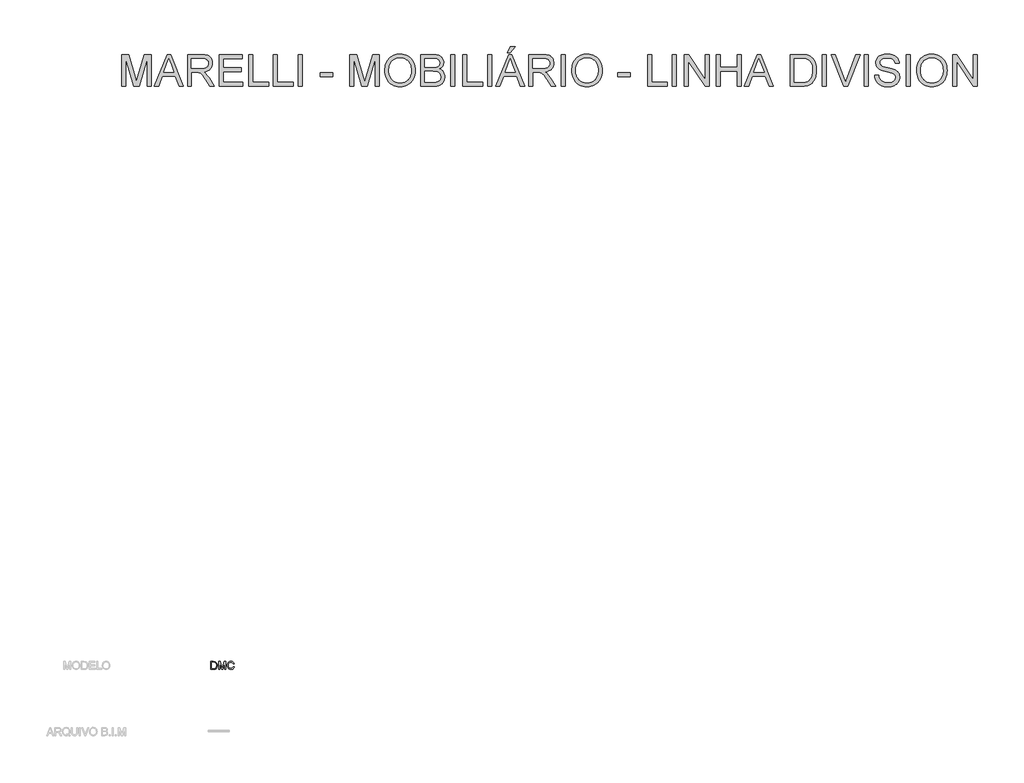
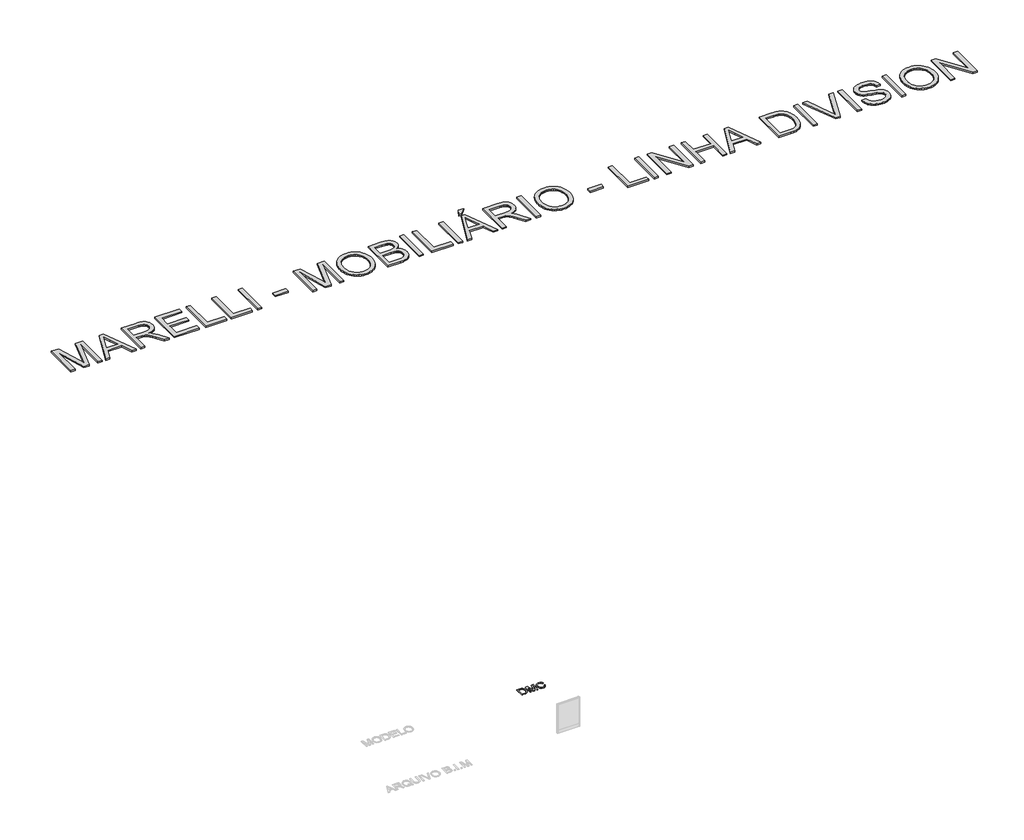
# One storey, part 3 of 3: 2 proxies.
"""IFC4 building model written with IfcOpenShell, lengths in millimetres."""

from ifc_helpers import new_model, si_unit, origin, origin_with_axes, place, context, project, spatial, polyline, outline, extrude, element, save

model = new_model("IFC4")

# Units and contexts
model_context = context("Model", 3, world=origin())
ifc_project = project(units=[si_unit("LENGTHUNIT", "METRE", prefix="MILLI")], contexts=[model_context])

# Site, building, storey
site = spatial("IfcSite", under=ifc_project)
building = spatial("IfcBuilding", under=site)
storey = spatial("IfcBuildingStorey", under=building, Name="Marelli - Linha DIVISION - Planta Baixa", Elevation=0.0)

# Proxies
placement = place(None, origin())
element("IfcBuildingElementProxy", 1, Name="1200mm Arial", ObjectType="1200mm Arial", at=placement, inside=storey, context=model_context, shape_type="SweptSolid", body=[
    extrude(outline(polyline([(7231.5865402, 28269.4336799), (7231.5865402, 29474.9094017), (7490.8697704, 29474.9094017), (7737.49786, 28625.2491457), (7787.2355057, 28447.7828712), (7841.0934298, 28639.9644255), (8083.601241, 29474.9094017), (8342.8844712, 29474.9094017), (8342.8844712, 28269.4336799), (8192.200006, 28269.4336799), (8192.200006, 29324.2249365), (7889.3595476, 28269.4336799), (7685.1114639, 28269.4336799), (7382.2710054, 29324.2249365), (7382.2710054, 28269.4336799), (7231.5865402, 28269.4336799)])), origin_with_axes(), (0.0, 0.0, 1.0), 50.0),
    extrude(outline(polyline([(8466.198516, 28269.4336799), (8947.3881657, 29474.9094017), (9075.7054056, 29474.9094017), (9556.8950553, 28269.4336799), (9397.6757278, 28269.4336799), (9259.6464032, 28646.144843), (8763.1528625, 28646.144843), (8625.4178435, 28269.4336799), (8466.198516, 28269.4336799)]), holes=[polyline([(8818.4823146, 28796.8293082), (9204.6112567, 28796.8293082), (9096.0124918, 29093.1950435), (9011.5467857, 29324.2249365), (8936.4988586, 29119.093936), (8818.4823146, 28796.8293082)])]), origin_with_axes(), (0.0, 0.0, 1.0), 50.0),
    extrude(outline(polyline([(9717.8802164, 28269.4336799), (9717.8802164, 29474.9094017), (10237.3295936, 29474.9094017), (10311.890077, 29472.8768537), (10376.9408108, 29466.7792096), (10432.481795, 29456.6164695), (10478.5130296, 29442.3886334), (10517.7108562, 29423.0012522), (10552.7516163, 29397.3598771), (10583.6353098, 29365.4645082), (10610.3619367, 29327.3151453), (10631.9290187, 29284.9627306), (10647.3340772, 29240.4582062), (10656.5771123, 29193.8015722), (10659.6581241, 29144.9928285), (10654.5537614, 29083.0782887), (10639.2406733, 29026.2405204), (10613.7188599, 28974.4795237), (10577.9883211, 28927.7952985), (10556.1798166, 28906.7294558), (10531.5892045, 28887.6777669), (10474.0616575, 28855.616851), (10405.4056801, 28831.6125509), (10325.6212724, 28815.6648664), (10375.2853418, 28783.2176744), (10411.2642009, 28751.2119408), (10472.9947997, 28678.0034238), (10533.4010233, 28596.1128916), (10734.4117455, 28269.4336799), (10559.2999158, 28269.4336799), (10402.435033, 28519.2991311), (10339.6743647, 28614.6541442), (10289.1273785, 28684.6988761), (10247.0048901, 28732.9282057), (10209.5177148, 28762.8370119), (10174.0171022, 28780.384983), (10137.8543021, 28791.5318075), (10102.611207, 28795.504933), (10050.44554, 28796.8293082), (9868.5646816, 28796.8293082), (9868.5646816, 28269.4336799), (9717.8802164, 28269.4336799)]), holes=[polyline([(9868.5646816, 28947.5137734), (10205.8388948, 28947.5137734), (10302.7022241, 28952.8480624), (10342.9944997, 28959.5159235), (10377.8605158, 28968.8509292), (10408.0820217, 28981.1197937), (10434.4407666, 28996.5892316), (10456.9367506, 29015.2592429), (10475.5699737, 29037.1298275), (10490.1840859, 29061.1249306), (10500.6227375, 29086.1684974), (10506.8859285, 29112.2605279), (10508.9736588, 29139.4010221), (10504.9913362, 29177.9366611), (10493.0443684, 29212.9038448), (10473.1327555, 29244.3025731), (10445.2564973, 29272.132846), (10408.7718004, 29294.9231356), (10363.0348713, 29311.2019139), (10308.0457101, 29320.9691808), (10243.8043167, 29324.2249365), (9868.5646816, 29324.2249365), (9868.5646816, 28947.5137734)])]), origin_with_axes(), (0.0, 0.0, 1.0), 50.0),
    extrude(outline(polyline([(10923.3559382, 28269.4336799), (10923.3559382, 29474.9094017), (11789.7916132, 29474.9094017), (11789.7916132, 29324.2249365), (11074.0404034, 29324.2249365), (11074.0404034, 28966.3493316), (11752.1204969, 28966.3493316), (11752.1204969, 28815.6648664), (11074.0404034, 28815.6648664), (11074.0404034, 28420.1181452), (11808.6271714, 28420.1181452), (11808.6271714, 28269.4336799), (10923.3559382, 28269.4336799)])), origin_with_axes(), (0.0, 0.0, 1.0), 50.0),
    extrude(outline(polyline([(12034.6538692, 28269.4336799), (12034.6538692, 29474.9094017), (12185.3383345, 29474.9094017), (12185.3383345, 28420.1181452), (12788.0761954, 28420.1181452), (12788.0761954, 28269.4336799), (12034.6538692, 28269.4336799)])), origin_with_axes(), (0.0, 0.0, 1.0), 50.0),
    extrude(outline(polyline([(12957.5962187, 28269.4336799), (12957.5962187, 29474.9094017), (13108.280684, 29474.9094017), (13108.280684, 28420.1181452), (13711.0185449, 28420.1181452), (13711.0185449, 28269.4336799), (12957.5962187, 28269.4336799)])), origin_with_axes(), (0.0, 0.0, 1.0), 50.0),
    extrude(outline(polyline([(13899.3741264, 28269.4336799), (13899.3741264, 29474.9094017), (14050.0585916, 29474.9094017), (14050.0585916, 28269.4336799), (13899.3741264, 28269.4336799)])), origin_with_axes(), (0.0, 0.0, 1.0), 50.0),
    extrude(outline(polyline([(14728.1386851, 28627.3092848), (14728.1386851, 28777.9937501), (15199.0276389, 28777.9937501), (15199.0276389, 28627.3092848), (14728.1386851, 28627.3092848)])), origin_with_axes(), (0.0, 0.0, 1.0), 50.0),
    extrude(outline(polyline([(15858.2721743, 28269.4336799), (15858.2721743, 29474.9094017), (16117.5554045, 29474.9094017), (16364.1834941, 28625.2491457), (16413.9211398, 28447.7828712), (16467.7790639, 28639.9644255), (16710.2868751, 29474.9094017), (16969.5701053, 29474.9094017), (16969.5701053, 28269.4336799), (16818.8856401, 28269.4336799), (16818.8856401, 29324.2249365), (16516.0451817, 28269.4336799), (16311.797098, 28269.4336799), (16008.9566395, 29324.2249365), (16008.9566395, 28269.4336799), (15858.2721743, 28269.4336799)])), origin_with_axes(), (0.0, 0.0, 1.0), 50.0),
    extrude(outline(polyline([(17176.761245, 28856.2790386), (17179.2720396, 28929.0047106), (17186.8044235, 28997.6744835), (17199.3583966, 29062.2883574), (17216.9339589, 29122.8463323), (17239.5311104, 29179.3484083), (17267.1498512, 29231.7945852), (17299.7901813, 29280.1848632), (17337.4521005, 29324.5192421), (17379.0825468, 29364.1815197), (17423.6284579, 29398.5554936), (17471.0898338, 29427.6411639), (17521.4666745, 29451.4385304), (17574.75898, 29469.9475933), (17630.9667504, 29483.1683525), (17690.0899855, 29491.100808), (17752.1286855, 29493.7449599), (17833.2282713, 29488.7785529), (17910.244367, 29473.8793321), (17983.1769725, 29449.0472975), (18052.0260879, 29414.2824489), (18114.8603327, 29370.6332502), (18169.7483264, 29319.148165), (18216.690069, 29259.8271932), (18255.6855605, 29192.670335), (18286.3301307, 29119.2043006), (18308.2191094, 29040.9558002), (18321.3524966, 28957.9248339), (18325.7302923, 28870.1114017), (18321.1225704, 28781.1391411), (18307.2994044, 28696.9861347), (18284.2607944, 28617.6523825), (18252.0067405, 28543.1378843), (18211.3005977, 28475.410809), (18162.9057213, 28416.4393252), (18106.8221111, 28366.2234329), (18043.0497673, 28324.763132), (17974.0994843, 28292.31594), (17902.4820569, 28269.1393743), (17828.197485, 28255.2334349), (17751.2457687, 28250.5981218), (17668.7298372, 28255.7208786), (17590.702066, 28271.0891489), (17517.1624552, 28296.7029328), (17448.1110047, 28332.5622303), (17385.3503363, 28377.2782868), (17330.6830718, 28429.4623478), (17284.1092112, 28489.1144134), (17245.6287545, 28556.2344834), (17215.4992191, 28628.1278223), (17193.9781224, 28702.0996945), (17181.0654644, 28778.1500999), (17176.761245, 28856.2790386)]), holes=[polyline([(17327.4457102, 28854.8075107), (17329.3288062, 28803.4557827), (17334.9780941, 28754.9091549), (17344.3935739, 28709.1676273), (17357.5752456, 28666.2311999), (17374.5231093, 28626.0998728), (17395.2371649, 28588.7736458), (17419.7174124, 28554.2525191), (17447.9638519, 28522.5364926), (17479.0521797, 28494.1176085), (17512.0580925, 28469.4879089), (17546.9815901, 28448.6473939), (17583.8226727, 28431.5960634), (17622.5813401, 28418.3339175), (17663.2575925, 28408.8609561), (17705.8514297, 28403.1771793), (17750.3628519, 28401.282587), (17795.688213, 28403.1955734), (17838.9580334, 28408.9345325), (17880.1723132, 28418.4994644), (17919.3310523, 28431.890369), (17956.4342508, 28449.1072464), (17991.4819086, 28470.1500965), (18024.4740258, 28495.0189194), (18055.4106023, 28523.713715), (18083.4501081, 28555.9263822), (18107.7510132, 28591.3488198), (18128.3133174, 28629.9810278), (18145.1370209, 28671.8230063), (18158.2221236, 28716.8747551), (18167.5686256, 28765.1362743), (18173.1765267, 28816.607564), (18175.0458271, 28871.288624), (18171.8452538, 28940.248104), (18162.2435337, 29004.6826355), (18146.2406669, 29064.5922184), (18123.8366534, 29119.9768528), (18095.2798135, 29170.1099717), (18060.8184676, 29214.2650081), (18020.4526157, 29252.4419622), (17974.1822578, 29284.6408338), (17923.4421336, 29310.1994354), (17869.6669829, 29328.4555794), (17812.8568058, 29339.4092659), (17753.0116023, 29343.0604947), (17710.2131306, 29341.3015589), (17668.9321723, 29336.0247515), (17629.1687271, 29327.2300726), (17590.9227952, 29314.917522), (17554.1943765, 29299.0870999), (17518.983471, 29279.7388062), (17485.2900788, 29256.872641), (17453.1141998, 29230.4886041), (17423.6606476, 29199.993486), (17398.1342356, 29164.7940768), (17376.534964, 29124.8903767), (17358.8628326, 29080.2823855), (17345.1178416, 29030.9701033), (17335.2999908, 28976.9535301), (17329.4092804, 28918.2326659), (17327.4457102, 28854.8075107)])]), origin_with_axes(), (0.0, 0.0, 1.0), 50.0),
    extrude(outline(polyline([(18532.921432, 28269.4336799), (18532.921432, 29474.9094017), (18992.9210788, 29474.9094017), (19059.6456757, 29472.6929127), (19119.4356969, 29466.0434456), (19172.2911426, 29454.9610005), (19218.2120126, 29439.4455774), (19258.3663324, 29419.3316293), (19293.9221273, 29394.4536094), (19324.8793971, 29364.8115176), (19351.2381421, 29330.405354), (19372.2901893, 29293.1756961), (19387.3273658, 29255.0631214), (19396.3496718, 29216.0676299), (19399.3571071, 29176.1892216), (19396.8279184, 29139.3550369), (19389.2403522, 29103.606104), (19376.5944086, 29068.942423), (19358.8900876, 29035.3639939), (19336.0722069, 29003.9192804), (19308.0855841, 28975.6567461), (19274.9302193, 28950.5763911), (19236.6061124, 28928.6782153), (19282.0855241, 28909.2908341), (19321.9915235, 28884.0909175), (19356.3241107, 28853.0784653), (19385.0832857, 28816.2534776), (19407.8091959, 28774.7379944), (19424.0419889, 28729.6540559), (19433.7816648, 28681.001662), (19437.0282234, 28628.7808128), (19434.8117344, 28585.9869397), (19428.1622673, 28544.7197769), (19417.0798222, 28504.9793244), (19401.564399, 28466.7655821), (19382.7748261, 28431.4673047), (19361.8699318, 28400.4732466), (19338.8497159, 28373.7834079), (19313.7141786, 28351.3977885), (19285.8747086, 28332.3966834), (19254.7426948, 28315.8603877), (19220.3181371, 28301.7889014), (19182.6010355, 28290.1822245), (19141.0027789, 28281.1047362), (19094.9347561, 28274.6208161), (18989.3894116, 28269.4336799), (18532.921432, 28269.4336799)]), holes=[polyline([(18683.6058973, 28985.1848897), (18958.7816296, 28985.1848897), (19055.0195596, 28988.4222513), (19119.4724851, 28998.134336), (19149.5744294, 29007.9108), (19175.7216422, 29020.4647731), (19197.9141236, 29035.7962552), (19216.1518735, 29053.9052464), (19230.3797096, 29074.662988), (19240.5424498, 29097.9407213), (19246.6400938, 29123.7384462), (19248.6726418, 29152.0561628), (19246.7780496, 29179.1690658), (19241.0942727, 29204.5897117), (19231.6213114, 29228.3181004), (19218.3591654, 29250.3542319), (19201.5653524, 29269.8795688), (19181.4973895, 29286.0755736), (19158.1552769, 29298.9422464), (19131.5390146, 29308.4795871), (19098.245694, 29315.3681775), (19054.8724068, 29320.2885992), (18937.8859323, 29324.2249365), (18683.6058973, 29324.2249365), (18683.6058973, 28985.1848897)]), polyline([(18683.6058973, 28420.1181452), (18992.6267732, 28420.1181452), (19060.3170603, 28421.5896731), (19104.4628997, 28426.0042571), (19156.3710493, 28439.0640679), (19199.0821489, 28458.819331), (19233.8102092, 28487.1094565), (19261.7692409, 28525.7738542), (19272.5205922, 28548.5641438), (19280.2001288, 28573.0834788), (19284.8078508, 28599.3318591), (19286.3437582, 28627.3092848), (19284.5411364, 28659.9036296), (19279.133271, 28690.2906824), (19270.1201622, 28718.4704432), (19257.5018097, 28744.4429121), (19240.8459524, 28767.463128), (19219.7203288, 28786.7861297), (19194.124939, 28802.4119175), (19164.059783, 28814.3404912), (19128.2004855, 28823.160462), (19085.2226714, 28829.4604412), (18977.9114934, 28834.5004245), (18683.6058973, 28834.5004245), (18683.6058973, 28420.1181452)])]), origin_with_axes(), (0.0, 0.0, 1.0), 50.0),
    extrude(outline(polyline([(19663.0549212, 28269.4336799), (19663.0549212, 29474.9094017), (19813.7393864, 29474.9094017), (19813.7393864, 28269.4336799), (19663.0549212, 28269.4336799)])), origin_with_axes(), (0.0, 0.0, 1.0), 50.0),
    extrude(outline(polyline([(20115.1083169, 28269.4336799), (20115.1083169, 29474.9094017), (20265.7927821, 29474.9094017), (20265.7927821, 28420.1181452), (20868.530643, 28420.1181452), (20868.530643, 28269.4336799), (20115.1083169, 28269.4336799)])), origin_with_axes(), (0.0, 0.0, 1.0), 50.0),
    extrude(outline(polyline([(21056.8862245, 28269.4336799), (21056.8862245, 29474.9094017), (21207.5706898, 29474.9094017), (21207.5706898, 28269.4336799), (21056.8862245, 28269.4336799)])), origin_with_axes(), (0.0, 0.0, 1.0), 50.0),
    extrude(outline(polyline([(21368.5558509, 28269.4336799), (21849.7455005, 29474.9094017), (21978.0627405, 29474.9094017), (22459.2523902, 28269.4336799), (22300.0330626, 28269.4336799), (22162.0037381, 28646.144843), (21665.5101974, 28646.144843), (21527.7751784, 28269.4336799), (21368.5558509, 28269.4336799)]), holes=[polyline([(21720.8396494, 28796.8293082), (22106.9685916, 28796.8293082), (21998.3698266, 29093.1950435), (21913.9041205, 29324.2249365), (21838.8561935, 29119.093936), (21720.8396494, 28796.8293082)])]), origin_with_axes(), (0.0, 0.0, 1.0), 50.0),
    extrude(outline(polyline([(21810.3085507, 29550.2516343), (21923.3218996, 29776.2783322), (22111.6774811, 29776.2783322), (21923.3218996, 29550.2516343), (21810.3085507, 29550.2516343)])), origin_with_axes(), (0.0, 0.0, 1.0), 50.0),
    extrude(outline(polyline([(22620.2375512, 28269.4336799), (22620.2375512, 29474.9094017), (23139.6869284, 29474.9094017), (23214.2474118, 29472.8768537), (23279.2981456, 29466.7792096), (23334.8391298, 29456.6164695), (23380.8703645, 29442.3886334), (23420.0681911, 29423.0012522), (23455.1089511, 29397.3598771), (23485.9926446, 29365.4645082), (23512.7192715, 29327.3151453), (23534.2863535, 29284.9627306), (23549.6914121, 29240.4582062), (23558.9344472, 29193.8015722), (23562.0154589, 29144.9928285), (23556.9110962, 29083.0782887), (23541.5980082, 29026.2405204), (23516.0761947, 28974.4795237), (23480.345656, 28927.7952985), (23458.5371514, 28906.7294558), (23433.9465393, 28887.6777669), (23376.4189923, 28855.616851), (23307.763015, 28831.6125509), (23227.9786073, 28815.6648664), (23277.6426766, 28783.2176744), (23313.6215358, 28751.2119408), (23375.3521345, 28678.0034238), (23435.7583582, 28596.1128916), (23636.7690803, 28269.4336799), (23461.6572506, 28269.4336799), (23304.7923679, 28519.2991311), (23242.0316995, 28614.6541442), (23191.4847134, 28684.6988761), (23149.3622249, 28732.9282057), (23111.8750496, 28762.8370119), (23076.3744371, 28780.384983), (23040.2116369, 28791.5318075), (23004.9685418, 28795.504933), (22952.8028749, 28796.8293082), (22770.9220165, 28796.8293082), (22770.9220165, 28269.4336799), (22620.2375512, 28269.4336799)]), holes=[polyline([(22770.9220165, 28947.5137734), (23108.1962296, 28947.5137734), (23205.059559, 28952.8480624), (23245.3518345, 28959.5159235), (23280.2178506, 28968.8509292), (23310.4393565, 28981.1197937), (23336.7981015, 28996.5892316), (23359.2940855, 29015.2592429), (23377.9273085, 29037.1298275), (23392.5414208, 29061.1249306), (23402.9800724, 29086.1684974), (23409.2432634, 29112.2605279), (23411.3309937, 29139.4010221), (23407.3486711, 29177.9366611), (23395.4017033, 29212.9038448), (23375.4900903, 29244.3025731), (23347.6138321, 29272.132846), (23311.1291352, 29294.9231356), (23265.3922062, 29311.2019139), (23210.403045, 29320.9691808), (23146.1616515, 29324.2249365), (22770.9220165, 29324.2249365), (22770.9220165, 28947.5137734)])]), origin_with_axes(), (0.0, 0.0, 1.0), 50.0),
    extrude(outline(polyline([(23844.5488312, 28269.4336799), (23844.5488312, 29474.9094017), (23995.2332964, 29474.9094017), (23995.2332964, 28269.4336799), (23844.5488312, 28269.4336799)])), origin_with_axes(), (0.0, 0.0, 1.0), 50.0),
    extrude(outline(polyline([(24240.0955524, 28856.2790386), (24242.606347, 28929.0047106), (24250.1387309, 28997.6744835), (24262.692704, 29062.2883574), (24280.2682663, 29122.8463323), (24302.8654178, 29179.3484083), (24330.4841586, 29231.7945852), (24363.1244886, 29280.1848632), (24400.7864079, 29324.5192421), (24442.4168542, 29364.1815197), (24486.9627653, 29398.5554936), (24534.4241412, 29427.6411639), (24584.8009819, 29451.4385304), (24638.0932874, 29469.9475933), (24694.3010578, 29483.1683525), (24753.4242929, 29491.100808), (24815.4629929, 29493.7449599), (24896.5625787, 29488.7785529), (24973.5786744, 29473.8793321), (25046.5112799, 29449.0472975), (25115.3603953, 29414.2824489), (25178.1946401, 29370.6332502), (25233.0826338, 29319.148165), (25280.0243764, 29259.8271932), (25319.0198679, 29192.670335), (25349.6644381, 29119.2043006), (25371.5534168, 29040.9558002), (25384.686804, 28957.9248339), (25389.0645997, 28870.1114017), (25384.4568778, 28781.1391411), (25370.6337118, 28696.9861347), (25347.5951018, 28617.6523825), (25315.3410479, 28543.1378843), (25274.6349051, 28475.410809), (25226.2400287, 28416.4393252), (25170.1564185, 28366.2234329), (25106.3840746, 28324.763132), (25037.4337917, 28292.31594), (24965.8163643, 28269.1393743), (24891.5317924, 28255.2334349), (24814.5800761, 28250.5981218), (24732.0641446, 28255.7208786), (24654.0363734, 28271.0891489), (24580.4967625, 28296.7029328), (24511.445312, 28332.5622303), (24448.6846437, 28377.2782868), (24394.0173792, 28429.4623478), (24347.4435186, 28489.1144134), (24308.9630619, 28556.2344834), (24278.8335265, 28628.1278223), (24257.3124298, 28702.0996945), (24244.3997718, 28778.1500999), (24240.0955524, 28856.2790386)]), holes=[polyline([(24390.7800176, 28854.8075107), (24392.6631136, 28803.4557827), (24398.3124015, 28754.9091549), (24407.7278813, 28709.1676273), (24420.909553, 28666.2311999), (24437.8574167, 28626.0998728), (24458.5714723, 28588.7736458), (24483.0517198, 28554.2525191), (24511.2981593, 28522.5364926), (24542.3864871, 28494.1176085), (24575.3923999, 28469.4879089), (24610.3158975, 28448.6473939), (24647.1569801, 28431.5960634), (24685.9156475, 28418.3339175), (24726.5918999, 28408.8609561), (24769.1857371, 28403.1771793), (24813.6971593, 28401.282587), (24859.0225204, 28403.1955734), (24902.2923408, 28408.9345325), (24943.5066205, 28418.4994644), (24982.6653597, 28431.890369), (25019.7685581, 28449.1072464), (25054.816216, 28470.1500965), (25087.8083332, 28495.0189194), (25118.7449097, 28523.713715), (25146.7844155, 28555.9263822), (25171.0853206, 28591.3488198), (25191.6476248, 28629.9810278), (25208.4713283, 28671.8230063), (25221.556431, 28716.8747551), (25230.902933, 28765.1362743), (25236.5108341, 28816.607564), (25238.3801345, 28871.288624), (25235.1795612, 28940.248104), (25225.5778411, 29004.6826355), (25209.5749743, 29064.5922184), (25187.1709608, 29119.9768528), (25158.6141209, 29170.1099717), (25124.152775, 29214.2650081), (25083.7869231, 29252.4419622), (25037.5165652, 29284.6408338), (24986.776441, 29310.1994354), (24933.0012903, 29328.4555794), (24876.1911132, 29339.4092659), (24816.3459097, 29343.0604947), (24773.547438, 29341.3015589), (24732.2664797, 29336.0247515), (24692.5030345, 29327.2300726), (24654.2571026, 29314.917522), (24617.5286839, 29299.0870999), (24582.3177784, 29279.7388062), (24548.6243862, 29256.872641), (24516.4485072, 29230.4886041), (24486.9949549, 29199.993486), (24461.468543, 29164.7940768), (24439.8692714, 29124.8903767), (24422.19714, 29080.2823855), (24408.452149, 29030.9701033), (24398.6342982, 28976.9535301), (24392.7435878, 28918.2326659), (24390.7800176, 28854.8075107)])]), origin_with_axes(), (0.0, 0.0, 1.0), 50.0),
    extrude(outline(polyline([(25972.9669025, 28627.3092848), (25972.9669025, 28777.9937501), (26443.8558563, 28777.9937501), (26443.8558563, 28627.3092848), (25972.9669025, 28627.3092848)])), origin_with_axes(), (0.0, 0.0, 1.0), 50.0),
    extrude(outline(polyline([(27103.1003917, 28269.4336799), (27103.1003917, 29474.9094017), (27253.7848569, 29474.9094017), (27253.7848569, 28420.1181452), (27856.5227178, 28420.1181452), (27856.5227178, 28269.4336799), (27103.1003917, 28269.4336799)])), origin_with_axes(), (0.0, 0.0, 1.0), 50.0),
    extrude(outline(polyline([(28044.8782993, 28269.4336799), (28044.8782993, 29474.9094017), (28195.5627645, 29474.9094017), (28195.5627645, 28269.4336799), (28044.8782993, 28269.4336799)])), origin_with_axes(), (0.0, 0.0, 1.0), 50.0),
    extrude(outline(polyline([(28496.931695, 28269.4336799), (28496.931695, 29474.9094017), (28658.2111617, 29474.9094017), (29288.0251374, 28519.8877422), (29288.0251374, 29474.9094017), (29438.7096026, 29474.9094017), (29438.7096026, 28269.4336799), (29277.430136, 28269.4336799), (28647.6161602, 29224.749645), (28647.6161602, 28269.4336799), (28496.931695, 28269.4336799)])), origin_with_axes(), (0.0, 0.0, 1.0), 50.0),
    extrude(outline(polyline([(29702.4074168, 28269.4336799), (29702.4074168, 29474.9094017), (29853.091882, 29474.9094017), (29853.091882, 28985.1848897), (30493.5008592, 28985.1848897), (30493.5008592, 29474.9094017), (30644.1853244, 29474.9094017), (30644.1853244, 28269.4336799), (30493.5008592, 28269.4336799), (30493.5008592, 28834.5004245), (29853.091882, 28834.5004245), (29853.091882, 28269.4336799), (29702.4074168, 28269.4336799)])), origin_with_axes(), (0.0, 0.0, 1.0), 50.0),
    extrude(outline(polyline([(30767.4993692, 28269.4336799), (31248.6890189, 29474.9094017), (31377.0062588, 29474.9094017), (31858.1959085, 28269.4336799), (31698.976581, 28269.4336799), (31560.9472564, 28646.144843), (31064.4537157, 28646.144843), (30926.7186967, 28269.4336799), (30767.4993692, 28269.4336799)]), holes=[polyline([(31119.7831678, 28796.8293082), (31505.9121099, 28796.8293082), (31397.313345, 29093.1950435), (31312.8476389, 29324.2249365), (31237.7997119, 29119.093936), (31119.7831678, 28796.8293082)])]), origin_with_axes(), (0.0, 0.0, 1.0), 50.0),
    extrude(outline(polyline([(32490.0700234, 28269.4336799), (32490.0700234, 29474.9094017), (32905.9238308, 29474.9094017), (33030.1943688, 29470.5683942), (33079.8032558, 29465.1421348), (33121.0612216, 29457.5453716), (33170.9828083, 29443.2163678), (33217.1519987, 29424.06811), (33259.5687928, 29400.100598), (33298.2331904, 29371.3138319), (33342.9124588, 29328.1980621), (33381.5952506, 29279.4904859), (33414.2815658, 29225.1911034), (33440.9714046, 29165.2999146), (33461.701555, 29100.3687424), (33476.5088053, 29030.9494099), (33485.3931555, 28957.0419171), (33488.3546056, 28878.6462639), (33486.3496487, 28812.0136376), (33480.3347781, 28749.2621662), (33470.3099937, 28690.39185), (33456.2752956, 28635.4026887), (33439.0952064, 28584.6441704), (33419.6342489, 28538.465783), (33397.8924229, 28496.8675264), (33373.8697287, 28459.8494006), (33348.117989, 28426.9699473), (33321.1890269, 28397.787708), (33293.0828425, 28372.3026828), (33263.7994357, 28350.5148717), (33232.3915104, 28331.7804811), (33197.9117704, 28315.4557175), (33160.3602157, 28301.5405811), (33119.7368464, 28290.0350717), (33029.127511, 28274.5840279), (32925.9366113, 28269.4336799), (32490.0700234, 28269.4336799)]), holes=[polyline([(32640.7544887, 28420.1181452), (32907.3953588, 28420.1181452), (33017.6863809, 28425.5627987), (33062.8438958, 28432.3686156), (33101.3427466, 28441.8967593), (33134.7096436, 28453.9081064), (33164.471297, 28468.1635337), (33190.6277069, 28484.6630412), (33213.1788732, 28503.4066289), (33240.9815549, 28533.6189377), (33265.5284811, 28568.6321066), (33286.8196515, 28608.4461355), (33304.8550664, 28653.0610245), (33319.2116612, 28702.568744), (33329.4663718, 28757.0612645), (33335.6191982, 28816.5385861), (33337.6701403, 28881.0007087), (33333.6510295, 28968.4830472), (33321.5936971, 29045.2232314), (33301.4981432, 29111.2212613), (33273.3643676, 29166.477137), (33239.4732388, 29212.2416572), (33202.1056251, 29249.7656207), (33161.2615266, 29279.0490275), (33116.9409432, 29300.0918776), (33078.6444275, 29310.6500909), (33030.2679452, 29318.1916718), (32971.8114961, 29322.7166203), (32903.2750804, 29324.2249365), (32640.7544887, 29324.2249365), (32640.7544887, 28420.1181452)])]), origin_with_axes(), (0.0, 0.0, 1.0), 50.0),
    extrude(outline(polyline([(33714.3813034, 28269.4336799), (33714.3813034, 29474.9094017), (33865.0657686, 29474.9094017), (33865.0657686, 28269.4336799), (33714.3813034, 28269.4336799)])), origin_with_axes(), (0.0, 0.0, 1.0), 50.0),
    extrude(outline(polyline([(34522.5444704, 28269.4336799), (34042.8263487, 29474.9094017), (34204.1058154, 29474.9094017), (34525.1932208, 28606.4135875), (34560.8777743, 28505.2460388), (34590.2347575, 28410.7003661), (34620.1067755, 28508.6305532), (34654.3933775, 28606.4135875), (34976.3636996, 29474.9094017), (35137.6431663, 29474.9094017), (34678.2321308, 28269.4336799), (34522.5444704, 28269.4336799)])), origin_with_axes(), (0.0, 0.0, 1.0), 50.0),
    extrude(outline(polyline([(35296.5681882, 28269.4336799), (35296.5681882, 29474.9094017), (35447.2526535, 29474.9094017), (35447.2526535, 28269.4336799), (35296.5681882, 28269.4336799)])), origin_with_axes(), (0.0, 0.0, 1.0), 50.0),
    extrude(outline(polyline([(35692.1149095, 28683.8159593), (35842.7993747, 28683.8159593), (35849.6971621, 28639.9552284), (35860.0898285, 28600.1963818), (35873.9773738, 28564.5394194), (35891.3597981, 28532.9843413), (35913.1200181, 28504.8965509), (35940.1409506, 28479.641452), (35972.4225957, 28457.2190444), (36009.9649533, 28437.6293281), (36051.388466, 28421.7276289), (36095.3135762, 28410.3692723), (36141.740284, 28403.5542583), (36190.6685893, 28401.282587), (36233.9499061, 28403.0024353), (36274.6192606, 28408.1619803), (36312.676653, 28416.761222), (36348.1220833, 28428.8001602), (36380.0818316, 28443.8465338), (36407.6821783, 28461.4680814), (36430.9231233, 28481.6648029), (36449.8046667, 28504.4366985), (36464.418779, 28528.7996836), (36474.8574306, 28553.769674), (36481.1206216, 28579.3466697), (36483.2083519, 28605.5306707), (36481.6448534, 28631.6043071), (36476.954358, 28655.9672923), (36469.1368656, 28678.6196261), (36458.1923762, 28699.5613087), (36442.4102386, 28718.9027046), (36420.0798015, 28736.7541784), (36391.2010649, 28753.1157301), (36355.7740288, 28767.9873598), (36276.2011532, 28791.6421721), (36136.3692068, 28825.5241038), (35992.3434057, 28863.5998903), (35939.7822657, 28881.9480049), (35900.1889659, 28899.8362669), (35859.9518727, 28923.8405671), (35825.1778271, 28950.5304058), (35795.8668292, 28979.9057831), (35772.0188788, 29011.966699), (35753.5420056, 29046.3820596), (35740.344239, 29082.8207713), (35732.4255791, 29121.2828339), (35729.7860258, 29161.7682474), (35733.0509785, 29206.6406538), (35742.8458366, 29250.0231381), (35759.1706001, 29291.9157003), (35782.0252691, 29332.3183404), (35811.1523261, 29369.5847865), (35846.2942536, 29402.0687667), (35887.4510519, 29429.7702809), (35934.6227207, 29452.6893292), (35986.2181705, 29470.6511676), (36040.6463117, 29483.4810522), (36097.9071442, 29491.178983), (36158.0006682, 29493.7449599), (36223.5572397, 29491.0594213), (36285.1406857, 29483.0028056), (36342.7510061, 29469.5751128), (36396.388201, 29450.7763428), (36445.058989, 29426.7720427), (36487.7700886, 29397.7277591), (36524.5214999, 29363.6434923), (36555.3132229, 29324.5192421), (36579.9061343, 29281.4954428), (36598.0611108, 29235.7125285), (36609.7781523, 29187.1704992), (36615.057259, 29135.869355), (36464.3727937, 29135.869355), (36454.2928271, 29183.9515317), (36436.7080677, 29225.7797146), (36411.6185156, 29261.3539035), (36379.0241709, 29290.6740985), (36338.3180281, 29313.5931468), (36288.893082, 29329.9638956), (36230.7493327, 29339.7863449), (36163.8867801, 29343.0604947), (36094.8905119, 29339.8231331), (36035.9374222, 29330.1110484), (35987.0275109, 29313.9242406), (35948.1607781, 29291.2627097), (35918.5462775, 29264.021048), (35897.3930628, 29234.0938477), (35884.7011339, 29201.4811088), (35880.470491, 29166.1828314), (35883.4687293, 29135.8141727), (35892.463444, 29108.2782053), (35907.4546353, 29083.5749294), (35928.4423032, 29061.7043447), (35961.4781063, 29040.9925884), (36013.4966204, 29020.0601029), (36084.4978455, 28998.9068882), (36174.4817815, 28977.5329442), (36340.6172906, 28937.1395012), (36399.0737396, 28918.8741601), (36441.1226516, 28901.896406), (36487.3194332, 28876.1630605), (36527.0230975, 28847.2291416), (36560.2336446, 28815.0946493), (36586.9510745, 28779.7595836), (36607.4880869, 28741.4078856), (36622.1573815, 28700.2234963), (36630.9589582, 28656.2064156), (36633.8928171, 28609.3566435), (36630.5174998, 28562.2217628), (36620.3915479, 28516.4664397), (36603.5149614, 28472.090674), (36579.8877402, 28429.0944658), (36549.9237517, 28389.1424812), (36514.0368631, 28353.899386), (36472.2270743, 28323.3651804), (36424.4943855, 28297.5398644), (36372.227551, 28277.002852), (36316.8153255, 28262.3335574), (36258.2577089, 28253.5319807), (36196.5547012, 28250.5981218), (36119.4742262, 28253.7619069), (36048.9236566, 28263.2532624), (35984.9029924, 28279.0721882), (35927.4122336, 28301.2186843), (35876.1018923, 28329.7295389), (35830.6224806, 28364.6415403), (35790.9739986, 28405.9546883), (35757.1564462, 28453.6689831), (35729.9147845, 28506.2393202), (35709.9939744, 28562.1205953), (35697.3940161, 28621.3128083), (35692.1149095, 28683.8159593)])), origin_with_axes(), (0.0, 0.0, 1.0), 50.0),
    extrude(outline(polyline([(36878.7550731, 28269.4336799), (36878.7550731, 29474.9094017), (37029.4395383, 29474.9094017), (37029.4395383, 28269.4336799), (36878.7550731, 28269.4336799)])), origin_with_axes(), (0.0, 0.0, 1.0), 50.0),
    extrude(outline(polyline([(37274.3017943, 28856.2790386), (37276.8125889, 28929.0047106), (37284.3449728, 28997.6744835), (37296.8989459, 29062.2883574), (37314.4745082, 29122.8463323), (37337.0716597, 29179.3484083), (37364.6904005, 29231.7945852), (37397.3307306, 29280.1848632), (37434.9926498, 29324.5192421), (37476.6230961, 29364.1815197), (37521.1690072, 29398.5554936), (37568.6303831, 29427.6411639), (37619.0072238, 29451.4385304), (37672.2995293, 29469.9475933), (37728.5072997, 29483.1683525), (37787.6305348, 29491.100808), (37849.6692348, 29493.7449599), (37930.7688206, 29488.7785529), (38007.7849163, 29473.8793321), (38080.7175218, 29449.0472975), (38149.5666372, 29414.2824489), (38212.400882, 29370.6332502), (38267.2888757, 29319.148165), (38314.2306183, 29259.8271932), (38353.2261098, 29192.670335), (38383.87068, 29119.2043006), (38405.7596587, 29040.9558002), (38418.8930459, 28957.9248339), (38423.2708417, 28870.1114017), (38418.6631197, 28781.1391411), (38404.8399537, 28696.9861347), (38381.8013437, 28617.6523825), (38349.5472898, 28543.1378843), (38308.8411471, 28475.410809), (38260.4462706, 28416.4393252), (38204.3626604, 28366.2234329), (38140.5903166, 28324.763132), (38071.6400336, 28292.31594), (38000.0226062, 28269.1393743), (37925.7380343, 28255.2334349), (37848.786318, 28250.5981218), (37766.2703865, 28255.7208786), (37688.2426153, 28271.0891489), (37614.7030045, 28296.7029328), (37545.651554, 28332.5622303), (37482.8908856, 28377.2782868), (37428.2236211, 28429.4623478), (37381.6497605, 28489.1144134), (37343.1693038, 28556.2344834), (37313.0397684, 28628.1278223), (37291.5186717, 28702.0996945), (37278.6060137, 28778.1500999), (37274.3017943, 28856.2790386)]), holes=[polyline([(37424.9862595, 28854.8075107), (37426.8693555, 28803.4557827), (37432.5186434, 28754.9091549), (37441.9341232, 28709.1676273), (37455.1157949, 28666.2311999), (37472.0636586, 28626.0998728), (37492.7777142, 28588.7736458), (37517.2579617, 28554.2525191), (37545.5044012, 28522.5364926), (37576.592729, 28494.1176085), (37609.5986418, 28469.4879089), (37644.5221394, 28448.6473939), (37681.363222, 28431.5960634), (37720.1218894, 28418.3339175), (37760.7981418, 28408.8609561), (37803.391979, 28403.1771793), (37847.9034012, 28401.282587), (37893.2287623, 28403.1955734), (37936.4985827, 28408.9345325), (37977.7128625, 28418.4994644), (38016.8716016, 28431.890369), (38053.9748001, 28449.1072464), (38089.0224579, 28470.1500965), (38122.0145751, 28495.0189194), (38152.9511516, 28523.713715), (38180.9906574, 28555.9263822), (38205.2915625, 28591.3488198), (38225.8538667, 28629.9810278), (38242.6775702, 28671.8230063), (38255.7626729, 28716.8747551), (38265.1091749, 28765.1362743), (38270.717076, 28816.607564), (38272.5863764, 28871.288624), (38269.3858031, 28940.248104), (38259.784083, 29004.6826355), (38243.7812162, 29064.5922184), (38221.3772027, 29119.9768528), (38192.8203628, 29170.1099717), (38158.3590169, 29214.2650081), (38117.993165, 29252.4419622), (38071.7228071, 29284.6408338), (38020.9826829, 29310.1994354), (37967.2075322, 29328.4555794), (37910.3973551, 29339.4092659), (37850.5521516, 29343.0604947), (37807.75368, 29341.3015589), (37766.4727216, 29336.0247515), (37726.7092764, 29327.2300726), (37688.4633445, 29314.917522), (37651.7349258, 29299.0870999), (37616.5240203, 29279.7388062), (37582.8306281, 29256.872641), (37550.6547491, 29230.4886041), (37521.2011969, 29199.993486), (37495.6747849, 29164.7940768), (37474.0755133, 29124.8903767), (37456.4033819, 29080.2823855), (37442.6583909, 29030.9701033), (37432.8405401, 28976.9535301), (37426.9498297, 28918.2326659), (37424.9862595, 28854.8075107)])]), origin_with_axes(), (0.0, 0.0, 1.0), 50.0),
    extrude(outline(polyline([(38630.4619813, 28269.4336799), (38630.4619813, 29474.9094017), (38791.741448, 29474.9094017), (39421.5554238, 28519.8877422), (39421.5554238, 29474.9094017), (39572.239889, 29474.9094017), (39572.239889, 28269.4336799), (39410.9604223, 28269.4336799), (38781.1464466, 29224.749645), (38781.1464466, 28269.4336799), (38630.4619813, 28269.4336799)])), origin_with_axes(), (0.0, 0.0, 1.0), 50.0),
])
element("IfcBuildingElementProxy", 2, Name="300mm Arial", ObjectType="300mm Arial", at=placement, inside=storey, context=model_context, shape_type="SweptSolid", body=[
    extrude(outline(polyline([(10588.7720603, 6219.4336799), (10588.7720603, 6520.8026104), (10692.7355121, 6520.8026104), (10746.5198598, 6516.4616028), (10770.5425541, 6508.0922874), (10790.8128521, 6494.9037179), (10811.6533671, 6471.9478814), (10826.4974056, 6443.4002386), (10835.3817558, 6409.8126124), (10838.3432058, 6371.7368259), (10836.338249, 6339.3908015), (10830.3233783, 6310.9259321), (10821.1631167, 6286.6917057), (10809.7219866, 6267.0376101), (10796.5518112, 6251.522187), (10782.2044134, 6239.7039779), (10765.732497, 6230.9391893), (10746.188766, 6224.5840279), (10697.7387073, 6219.4336799), (10588.7720603, 6219.4336799)]), holes=[polyline([(10626.4431766, 6257.1047962), (10693.1033941, 6257.1047962), (10720.6761497, 6258.4659596), (10741.5902411, 6262.5494498), (10757.3723787, 6269.1161434), (10769.5492727, 6277.9269172), (10782.6366747, 6294.2332866), (10792.468321, 6315.3405161), (10798.6211474, 6341.3405761), (10800.6720895, 6372.3254371), (10796.6529787, 6413.3810678), (10784.5956463, 6443.6945442), (10766.7809607, 6464.5166651), (10745.4897902, 6477.0982294), (10723.8215407, 6481.6231779), (10692.0733245, 6483.1314941), (10626.4431766, 6483.1314941), (10626.4431766, 6257.1047962)])]), origin_with_axes(), (0.0, 0.0, 1.0), 10.0),
    extrude(outline(polyline([(10890.1409908, 6219.4336799), (10890.1409908, 6520.8026104), (10954.9617983, 6520.8026104), (11016.6188207, 6308.3875464), (11029.0532321, 6264.0209777), (11042.5177132, 6312.0663663), (11103.144666, 6520.8026104), (11167.9654735, 6520.8026104), (11167.9654735, 6219.4336799), (11130.2943572, 6219.4336799), (11130.2943572, 6483.1314941), (11054.5842426, 6219.4336799), (11003.5222217, 6219.4336799), (10927.8121071, 6483.1314941), (10927.8121071, 6219.4336799), (10890.1409908, 6219.4336799)])), origin_with_axes(), (0.0, 0.0, 1.0), 10.0),
    extrude(outline(polyline([(11445.7899563, 6326.5609169), (11483.4610726, 6316.8488323), (11476.0068636, 6293.4216469), (11466.0786483, 6272.9513132), (11453.6764265, 6255.4378309), (11438.8001984, 6240.8812003), (11421.7856561, 6229.4377709), (11402.968492, 6221.2638929), (11382.3487062, 6216.359566), (11359.9262986, 6214.7247904), (11316.2311146, 6219.6728032), (11281.5306454, 6234.5168417), (11254.9327772, 6258.7418711), (11235.545396, 6291.8328566), (11223.7087928, 6330.7363776), (11219.7632584, 6372.3990135), (11224.2238276, 6416.3425179), (11237.6055352, 6454.2895457), (11259.2094054, 6485.0352834), (11288.3364623, 6507.3749176), (11322.8805817, 6520.9773543), (11360.735639, 6525.5114999), (11402.03959, 6519.6437821), (11420.0083262, 6512.3091348), (11436.1882362, 6502.0406286), (11450.3126055, 6489.1095765), (11462.1147198, 6473.7872914), (11478.752183, 6435.9690223), (11441.0810667, 6426.9927016), (11428.0212559, 6454.4642896), (11410.1789791, 6473.3090448), (11387.3335072, 6484.2075489), (11359.264111, 6487.8403836), (11326.9088895, 6483.8120758), (11300.3294154, 6471.7271522), (11280.160285, 6452.8548059), (11267.0360948, 6428.4642296), (11259.8348048, 6400.8914741), (11257.4343747, 6372.4725899), (11260.2762631, 6337.6709532), (11268.8019284, 6307.578206), (11283.3332672, 6283.3439795), (11304.1921763, 6266.1179051), (11329.1989549, 6255.8264063), (11356.1739022, 6252.3959067), (11387.6186158, 6257.068008), (11413.8210109, 6271.0843121), (11433.6038652, 6294.297666), (11445.7899563, 6326.5609169)])), origin_with_axes(), (0.0, 0.0, 1.0), 10.0),
])

save(model, "model.ifc")
